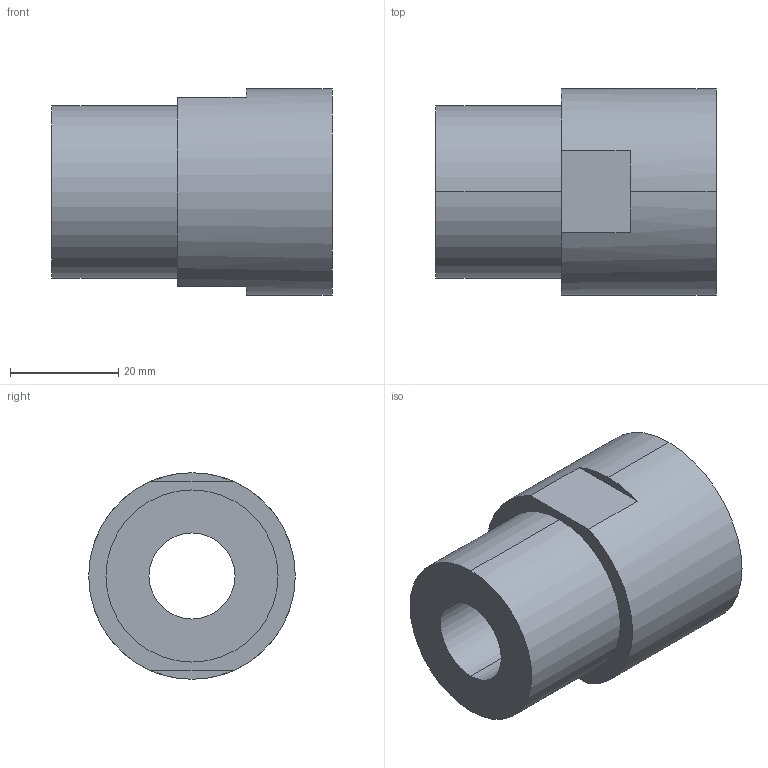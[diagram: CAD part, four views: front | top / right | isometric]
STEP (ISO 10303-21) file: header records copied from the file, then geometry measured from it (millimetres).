
FILE_DESCRIPTION (( 'STEP AP214' ), '1' );
FILE_NAME ('Fitting FNPT 08.STEP', '2012-09-26T20:11:37', ( '' ), ( '' ), 'SwSTEP 2.0', 'SolidWorks 2012', '' );
FILE_SCHEMA (( 'AUTOMOTIVE_DESIGN' ));
Length unit declared in the file: inch
Products named in the file (1): Fitting FNPT 08
Bounding box: 51.69 x 38.1 x 38.1 mm (x, y, z)
Volume: 39214.9 mm3; surface area: 10296.8 mm2
Topology: 1 solids, 1 shells, 16 faces, 36 edges, 24 vertices
Faces by surface type: cylinder 8, plane 8
Entity records: 543 total; most frequent: DIRECTION 90, CARTESIAN_POINT 77, ORIENTED_EDGE 72, AXIS2_PLACEMENT_3D 37, EDGE_CURVE 36, VERTEX_POINT 24, CIRCLE 20, EDGE_LOOP 20
